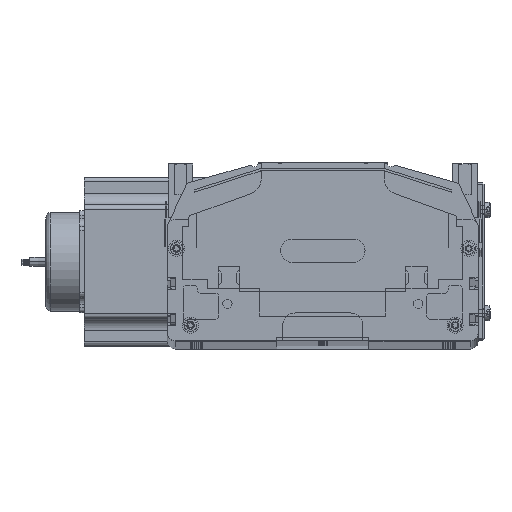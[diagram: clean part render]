
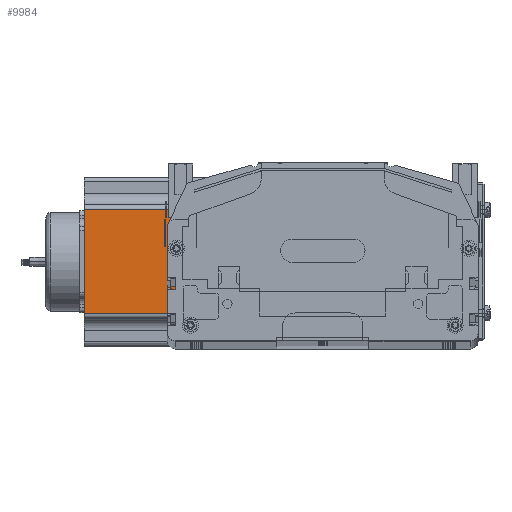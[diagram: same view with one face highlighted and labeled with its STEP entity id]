
A CAD part, top view. The second image highlights one B-rep face of the part: STEP entity #9984.
In plain terms, the highlighted planar face has unit normal (0, 0, 1) as drawn and (0, -1, 0) by its records, which use the part's own axes.
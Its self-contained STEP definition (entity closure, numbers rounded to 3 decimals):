
#9924 = ORIENTED_EDGE ( 'NONE', *, *, #10615, .T. ) ;
#9927 = EDGE_CURVE ( 'NONE', #10328, #10026, #83409, .T. ) ;
#9984 = ADVANCED_FACE ( 'NONE', ( #84996 ), #84993, .F. ) ;
#9986 = ORIENTED_EDGE ( 'NONE', *, *, #10030, .F. ) ;
#10007 = ORIENTED_EDGE ( 'NONE', *, *, #10782, .T. ) ;
#10022 = ORIENTED_EDGE ( 'NONE', *, *, #9927, .T. ) ;
#10024 = VERTEX_POINT ( 'NONE', #83017 ) ;
#10026 = VERTEX_POINT ( 'NONE', #82793 ) ;
#10030 = EDGE_CURVE ( 'NONE', #10024, #10026, #85626, .T. ) ;
#10328 = VERTEX_POINT ( 'NONE', #86479 ) ;
#10614 = EDGE_LOOP ( 'NONE', ( #9924, #10022, #9986, #10007 ) ) ;
#10615 = EDGE_CURVE ( 'NONE', #10705, #10328, #87279, .T. ) ;
#10705 = VERTEX_POINT ( 'NONE', #88065 ) ;
#10782 = EDGE_CURVE ( 'NONE', #10024, #10705, #87726, .T. ) ;
#82793 = CARTESIAN_POINT ( 'NONE',  ( 88.952, 0., 160.5 ) ) ;
#83017 = CARTESIAN_POINT ( 'NONE',  ( 21.048, 0., 160.5 ) ) ;
#83401 = DIRECTION ( 'NONE',  ( 0., 0., 1. ) ) ;
#83402 = VECTOR ( 'NONE', #83401, 1000. ) ;
#83408 = CARTESIAN_POINT ( 'NONE',  ( 88.952, 0., 160.5 ) ) ;
#83409 = LINE ( 'NONE', #83408, #83402 ) ;
#84993 = PLANE ( 'NONE',  #85005 ) ;
#84996 = FACE_OUTER_BOUND ( 'NONE', #10614, .T. ) ;
#85005 = AXIS2_PLACEMENT_3D ( 'NONE', #85340, #85199, #85198 ) ;
#85198 = DIRECTION ( 'NONE',  ( 0., 0., 1. ) ) ;
#85199 = DIRECTION ( 'NONE',  ( 0., 1., 0. ) ) ;
#85340 = CARTESIAN_POINT ( 'NONE',  ( 0., 0., 160.5 ) ) ;
#85599 = DIRECTION ( 'NONE',  ( 1., 0., 0. ) ) ;
#85601 = VECTOR ( 'NONE', #85599, 1000. ) ;
#85602 = CARTESIAN_POINT ( 'NONE',  ( 0., 0., 160.5 ) ) ;
#85626 = LINE ( 'NONE', #85602, #85601 ) ;
#86479 = CARTESIAN_POINT ( 'NONE',  ( 88.952, 0., 0. ) ) ;
#87242 = DIRECTION ( 'NONE',  ( 1., 0., 0. ) ) ;
#87243 = VECTOR ( 'NONE', #87242, 1000. ) ;
#87253 = CARTESIAN_POINT ( 'NONE',  ( 0., 0., 0. ) ) ;
#87279 = LINE ( 'NONE', #87253, #87243 ) ;
#87650 = VECTOR ( 'NONE', #87761, 1000. ) ;
#87726 = LINE ( 'NONE', #87763, #87650 ) ;
#87761 = DIRECTION ( 'NONE',  ( 0., 0., -1. ) ) ;
#87763 = CARTESIAN_POINT ( 'NONE',  ( 21.048, 0., 160.5 ) ) ;
#88065 = CARTESIAN_POINT ( 'NONE',  ( 21.048, 0., 0. ) ) ;
